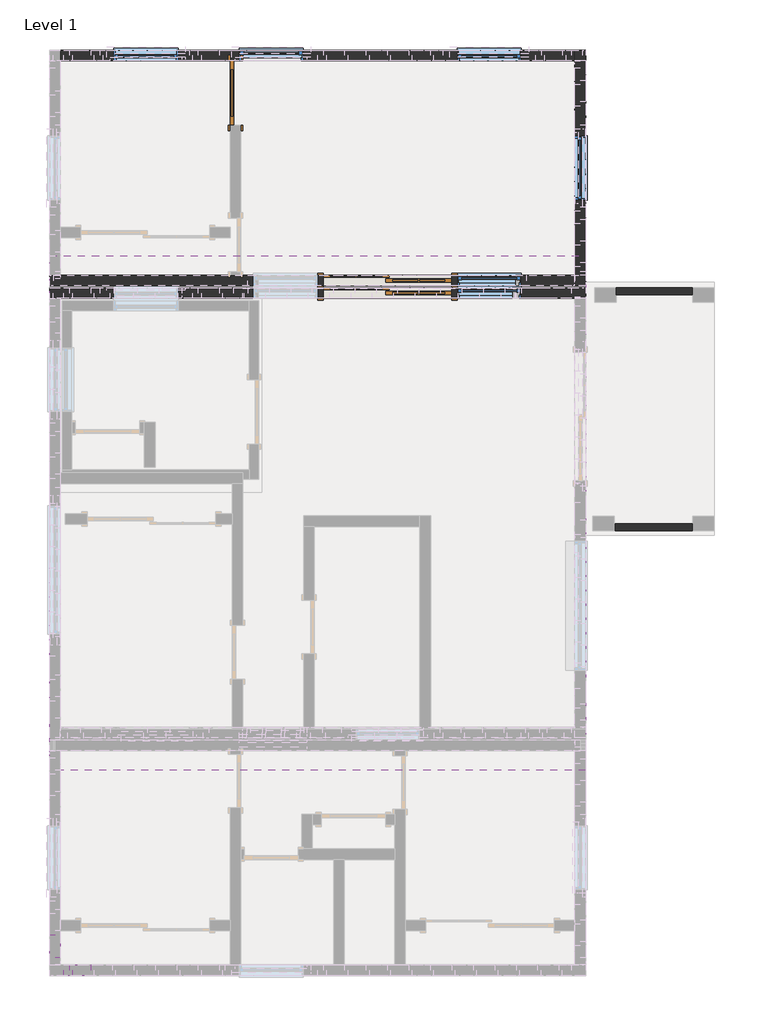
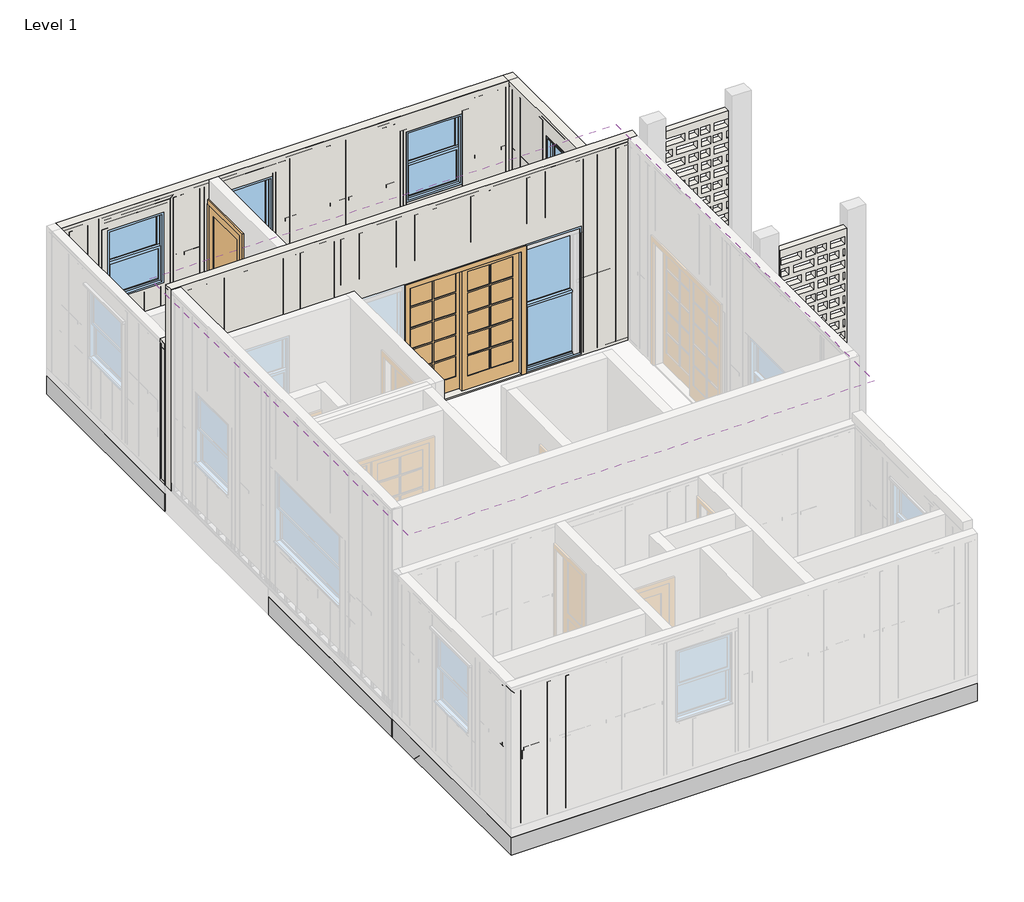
# One storey, part 2 of 12: 16 beams, 6 walls, 6 windows, 4 proxies, 3 doors, 1 roof.
"""IFC4 building model written with IfcOpenShell, lengths in millimetres."""

from ifc_helpers import new_model, si_unit, frame, origin, place, context, project, spatial, polyline, outline, extrude, faceted_brep, transform, mapped, element, save
from components import beam_558964e0, beam_19b97b81, beam_b824596b, beam_c7d5a1a4, beam_e62cedd2, beam_48424ac2, beam_34389604, door_d17baa25, door_789d9d7f, window_cbc6d26e, window_e812f40b, window_8e2a3c93

model = new_model("IFC4")

# Units and contexts
model_context = context("Model", 3, world=origin())
ifc_project = project(units=[si_unit("LENGTHUNIT", "METRE", prefix="MILLI")], contexts=[model_context])

# Site, building, storey
site = spatial("IfcSite", under=ifc_project)
building = spatial("IfcBuilding", under=site)
storey = spatial("IfcBuildingStorey", under=building, Name="Level 1", Elevation=0.0)

# Beams
placement = place(None, origin())
element("IfcBeam", 1, ObjectType="Rectangular(Timber)-Beam : Timber_0' - 1 31/32\" x0' - 5 29/32\" _ContentGenerator", at=placement, inside=storey, context=model_context, shape_type="SweptSolid", body=[
    extrude(outline(polyline([(2336.8, -11478.8690766), (2387.6, -11529.6690766), (0.0, -11529.6690766), (0.0, -11478.8690766), (2336.8, -11478.8690766)])), frame((0.0, -28538.9763369, 0.0), z_axis=(0.0, 1.0, 0.0), x_axis=(0.0, 0.0, 1.0)), (0.0, 0.0, 1.0), 152.4),
])
element("IfcBeam", 2, ObjectType="Rectangular(Timber)-Beam : Timber_0' - 1 31/32\" x0' - 5 29/32\" _ContentGenerator", at=placement, inside=storey, context=model_context, shape_type="SweptSolid", body=[
    extrude(outline(polyline([(-28386.5813369, 2387.6), (-28335.7813369, 2336.8), (-28335.7813369, 0.0), (-28386.5813369, 0.0), (-28386.5813369, 2387.6)])), frame((-11529.6790766, 0.0, 0.0), z_axis=(1.0, 0.0, 0.0), x_axis=(0.0, 1.0, 0.0)), (0.0, 0.0, 1.0), 152.4),
])
beam_shape = beam_558964e0(model_context)
element("IfcBeam", 3, ObjectType="Rectangular(Timber)-Beam : Timber_0' - 1 31/32\" x0' - 5 29/32\" _ContentGenerator", at=placement, inside=storey, context=model_context, shape_type="MappedRepresentation", body=[
    mapped(beam_shape, transform((-11453.4690766, -28462.7763369, 1193.8), x_axis=(0.0, 0.0, 1.0), y_axis=(1.0, 0.0, 0.0), z_axis=(0.0, 1.0, 0.0))),
])
element("IfcBeam", 4, ObjectType="Rectangular(Timber)-Beam : Timber_0' - 1 31/32\" x0' - 5 29/32\" _ContentGenerator", at=placement, inside=storey, context=model_context, shape_type="MappedRepresentation", body=[
    mapped(beam_shape, transform((-11402.6690766, -28462.7763369, 1193.8), x_axis=(0.0, 0.0, 1.0), y_axis=(1.0, 0.0, 0.0), z_axis=(0.0, 1.0, 0.0))),
])
element("IfcBeam", 5, ObjectType="Rectangular(Timber)-Beam : Timber_0' - 1 31/32\" x0' - 5 29/32\" _ContentGenerator", at=placement, inside=storey, context=model_context, shape_type="MappedRepresentation", body=[
    mapped(beam_shape, transform((-11224.8790766, -28462.7763369, 1193.8), x_axis=(0.0, 0.0, 1.0), y_axis=(1.0, 0.0, 0.0), z_axis=(0.0, 1.0, 0.0))),
])
element("IfcBeam", 6, ObjectType="Rectangular(Timber)-Beam : Timber_0' - 1 31/32\" x0' - 5 29/32\" _ContentGenerator", at=placement, inside=storey, context=model_context, shape_type="MappedRepresentation", body=[
    mapped(beam_shape, transform((-10920.0790766, -28462.7763369, 1193.8), x_axis=(0.0, 0.0, 1.0), y_axis=(1.0, 0.0, 0.0), z_axis=(0.0, 1.0, 0.0))),
])
element("IfcBeam", 7, ObjectType="Rectangular(Timber)-Beam : Timber_0' - 1 31/32\" x0' - 5 29/32\" _ContentGenerator", at=placement, inside=storey, context=model_context, shape_type="MappedRepresentation", body=[
    mapped(beam_shape, transform((-10615.2790766, -28462.7763369, 1193.8), x_axis=(0.0, 0.0, 1.0), y_axis=(1.0, 0.0, 0.0), z_axis=(0.0, 1.0, 0.0))),
])
element("IfcBeam", 8, ObjectType="Rectangular(Timber)-Beam : Timber_0' - 1 31/32\" x0' - 5 29/32\" _ContentGenerator", at=placement, inside=storey, context=model_context, shape_type="MappedRepresentation", body=[
    mapped(beam_shape, transform((-11453.4790766, -28310.3863369, 1193.8), x_axis=(0.0, 0.0, 1.0), y_axis=(0.0, -1.0, 0.0), z_axis=(1.0, 0.0, 0.0))),
])
element("IfcBeam", 9, ObjectType="Rectangular(Timber)-Beam : Timber_0' - 1 31/32\" x0' - 5 29/32\" _ContentGenerator", at=placement, inside=storey, context=model_context, shape_type="MappedRepresentation", body=[
    mapped(beam_shape, transform((-11351.8690766, -28462.7763369, 1193.8), x_axis=(0.0, 0.0, 1.0), y_axis=(1.0, 0.0, 0.0), z_axis=(0.0, 1.0, 0.0))),
])
beam_2_shape = beam_19b97b81(model_context)
element("IfcBeam", 10, ObjectType="Rectangular(Timber)-Beam : Timber_0' - 1 31/32\" x0' - 5 29/32\" _ContentGenerator", at=placement, inside=storey, context=model_context, shape_type="MappedRepresentation", body=[
    mapped(beam_2_shape, transform((-11072.4790766, -28462.7763369, 1314.45), x_axis=(1.0000000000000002, 0.0, 0.0), y_axis=(0.0, 0.0, -1.0000000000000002), z_axis=(0.0, 1.0000000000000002, 0.0))),
])
beam_3_shape = beam_b824596b(model_context)
element("IfcBeam", 11, ObjectType="Rectangular(Timber)-Beam : Timber_0' - 1 31/32\" x0' - 5 29/32\" _ContentGenerator", at=placement, inside=storey, context=model_context, shape_type="MappedRepresentation", body=[
    mapped(beam_3_shape, transform((-11453.4790766, -28119.8813369, 1314.45), x_axis=(0.0, -1.0000000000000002, 0.0), y_axis=(0.0, 0.0, -1.0000000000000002), z_axis=(1.0000000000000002, 0.0, 0.0))),
])
beam_4_shape = beam_c7d5a1a4(model_context)
element("IfcBeam", 12, ObjectType="Rectangular(Timber)-Beam : Timber_0' - 1 31/32\" x0' - 5 29/32\" _ContentGenerator", at=placement, inside=storey, context=model_context, shape_type="MappedRepresentation", body=[
    mapped(beam_4_shape, transform((-11288.3740766, -28462.7763369, 1314.45), x_axis=(1.0000000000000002, 0.0, 0.0), y_axis=(0.0, 0.0, -1.0000000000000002), z_axis=(0.0, 1.0000000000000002, 0.0))),
])
beam_5_shape = beam_e62cedd2(model_context)
element("IfcBeam", 13, ObjectType="WallPlates : 6\" x 3\"", at=placement, inside=storey, context=model_context, shape_type="MappedRepresentation", body=[
    mapped(beam_5_shape, transform((-11494.7540766, -28107.1813369, 793.75), x_axis=(0.0, -1.0000000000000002, 0.0), y_axis=(0.0, 0.0, -1.0000000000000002), z_axis=(1.0000000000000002, 0.0, 0.0))),
])
element("IfcBeam", 14, ObjectType="WallPlates : 6\" x 3\"", at=placement, inside=storey, context=model_context, shape_type="MappedRepresentation", body=[
    mapped(beam_5_shape, transform((-11494.7540766, -28107.1813369, 1219.2), x_axis=(0.0, -1.0000000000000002, 0.0), y_axis=(0.0, 0.0, -1.0000000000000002), z_axis=(1.0000000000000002, 0.0, 0.0))),
])
beam_6_shape = beam_48424ac2(model_context)
element("IfcBeam", 15, ObjectType="WallPlates : 6\" x 3\"", at=placement, inside=storey, context=model_context, shape_type="MappedRepresentation", body=[
    mapped(beam_6_shape, transform((-11288.3740766, -28504.0513369, 1219.2), x_axis=(1.0000000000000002, 0.0, 0.0), y_axis=(0.0, 0.0, -1.0000000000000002), z_axis=(0.0, 1.0000000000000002, 0.0))),
])
beam_7_shape = beam_34389604(model_context)
element("IfcBeam", 16, ObjectType="WallPlates : 6\" x 3\"", at=placement, inside=storey, context=model_context, shape_type="MappedRepresentation", body=[
    mapped(beam_7_shape, transform((-11085.1790766, -28504.0513369, 1219.2), x_axis=(1.0000000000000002, 0.0, 0.0), y_axis=(0.0, 0.0, -1.0000000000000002), z_axis=(0.0, 1.0000000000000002, 0.0))),
])

# Proxies
element("IfcBuildingElementProxy", 17, Name="Ext Thickened Edge Slab - CIP Conc - 24x12", ObjectType="Ext Thickened Edge Slab - CIP Conc - 24x12", at=placement, inside=storey, context=model_context, shape_type="Brep", body=[
    faceted_brep([(-8513.4290766, -18759.9763369, -457.2), (-8513.4290766, -19369.5763369, -457.2), (-8513.4290766, -19674.3763369, -152.4), (-8513.4290766, -18759.9763369, -152.4), (-3909.6790766, -18759.9763369, -152.4), (-3909.6790766, -18759.9763369, -457.2), (-4824.0790766, -19674.3763369, -152.4), (-4519.2790766, -19369.5763369, -457.2), (-3909.6790766, -25160.7763369, -152.4), (-3909.6790766, -25160.7763369, -457.2), (-4824.0790766, -24246.3763369, -152.4), (-4519.2790766, -24551.1763369, -457.2), (-11529.6790766, -25160.7763369, -152.4), (-11529.6790766, -25160.7763369, -457.2), (-10615.2790766, -24246.3763369, -152.4), (-10920.0790766, -24551.1763369, -457.2), (-11529.6790766, -21665.1013369, -457.2), (-11529.6790766, -21665.1013369, -152.4), (-10615.2790766, -21665.1013369, -152.4), (-10920.0790766, -21665.1013369, -457.2)], [[[0, 1, 2, 3]], [[4, 5, 0, 3]], [[6, 4, 3, 2]], [[7, 6, 2, 1]], [[5, 7, 1, 0]], [[8, 9, 5, 4]], [[10, 8, 4, 6]], [[11, 10, 6, 7]], [[9, 11, 7, 5]], [[12, 13, 9, 8]], [[14, 12, 8, 10]], [[15, 14, 10, 11]], [[13, 15, 11, 9]], [[16, 17, 18, 19]], [[17, 16, 13, 12]], [[18, 17, 12, 14]], [[19, 18, 14, 15]], [[16, 19, 15, 13]]]),
])
element("IfcBuildingElementProxy", 18, Name="Ext Thickened Edge Slab - CIP Conc - 24x12", ObjectType="Ext Thickened Edge Slab - CIP Conc - 24x12", at=placement, inside=storey, context=model_context, shape_type="Brep", body=[
    faceted_brep([(-3909.6790766, -15381.8431336, -152.4), (-3909.6790766, -15381.8431336, -457.2), (-11529.6790766, -15381.8431336, -457.2), (-11529.6790766, -15381.8431336, -152.4), (-4824.0790766, -16296.2431336, -152.4), (-10615.2790766, -16296.2431336, -152.4), (-4519.2790766, -15991.4431336, -457.2), (-10920.0790766, -15991.4431336, -457.2), (-3909.6790766, -18734.5763369, -152.4), (-3909.6790766, -18734.5763369, -457.2), (-4824.0790766, -17820.1763369, -152.4), (-4519.2790766, -18124.9763369, -457.2), (-11529.6790766, -18734.5763369, -152.4), (-11529.6790766, -18734.5763369, -457.2), (-10615.2790766, -17820.1763369, -152.4), (-10920.0790766, -18124.9763369, -457.2)], [[[0, 1, 2, 3]], [[4, 0, 3, 5]], [[6, 4, 5, 7]], [[1, 6, 7, 2]], [[8, 9, 1, 0]], [[10, 8, 0, 4]], [[11, 10, 4, 6]], [[9, 11, 6, 1]], [[12, 13, 9, 8]], [[14, 12, 8, 10]], [[15, 14, 10, 11]], [[13, 15, 11, 9]], [[3, 2, 13, 12]], [[5, 3, 12, 14]], [[7, 5, 14, 15]], [[2, 7, 15, 13]]]),
])
element("IfcBuildingElementProxy", 19, Name="Ext Thickened Edge Slab - CIP Conc - 24x12", ObjectType="Ext Thickened Edge Slab - CIP Conc - 24x12", at=placement, inside=storey, context=model_context, shape_type="Brep", body=[
    faceted_brep([(-3909.6790766, -25186.1763369, -457.2), (-4519.2790766, -25186.1763369, -457.2), (-4824.0790766, -25186.1763369, -152.4), (-3909.6790766, -25186.1763369, -152.4), (-3909.6790766, -28538.9763369, -152.4), (-3909.6790766, -28538.9763369, -457.2), (-4824.0790766, -27624.5763369, -152.4), (-4519.2790766, -27929.3763369, -457.2), (-11529.6790766, -28538.9763369, -152.4), (-11529.6790766, -28538.9763369, -457.2), (-10615.2790766, -27624.5763369, -152.4), (-10920.0790766, -27929.3763369, -457.2), (-11529.6790766, -25186.1763369, -457.2), (-11529.6790766, -25186.1763369, -152.4), (-10615.2790766, -25186.1763369, -152.4), (-10920.0790766, -25186.1763369, -457.2)], [[[0, 1, 2, 3]], [[4, 5, 0, 3]], [[6, 4, 3, 2]], [[7, 6, 2, 1]], [[5, 7, 1, 0]], [[8, 9, 5, 4]], [[10, 8, 4, 6]], [[11, 10, 6, 7]], [[9, 11, 7, 5]], [[12, 13, 14, 15]], [[13, 12, 9, 8]], [[14, 13, 8, 10]], [[15, 14, 10, 11]], [[12, 15, 11, 9]]]),
])
element("IfcBuildingElementProxy", 20, Name="Ext Thickened Edge Slab - CIP Conc - 24x12", ObjectType="Ext Thickened Edge Slab - CIP Conc - 24x12", at=placement, inside=storey, context=model_context, shape_type="SweptSolid", body=[
    extrude(outline(polyline([(-25186.1763369, -457.2), (-25795.7763369, -457.2), (-26100.5763369, -152.4), (-25186.1763369, -152.4), (-25186.1763369, -457.2)])), frame((-11529.6790766, 0.0, 0.0), z_axis=(1.0, 0.0, 0.0), x_axis=(0.0, 1.0, 0.0)), (0.0, 0.0, 1.0), 7620.0),
])

# Doors
door_shape = door_d17baa25(model_context)
element("IfcDoor", 21, ObjectType="Single-Panel 1 : 36\" x 80\"", at=placement, inside=storey, context=model_context, shape_type="MappedRepresentation", body=[
    mapped(door_shape, transform((-8888.0790766, -15991.4431336, 0.0), x_axis=(0.0, 1.0, 0.0), y_axis=(-1.0, 0.0, 0.0), z_axis=(0.0, 0.0, 1.0))),
])
door_2_shape = door_789d9d7f(model_context)
element("IfcDoor", 22, ObjectType="Sliding-2 Panel 2 : 72\" x 84\"", at=placement, inside=storey, context=model_context, shape_type="MappedRepresentation", body=[
    mapped(door_2_shape, transform((-6729.0790766, -18963.1763369, 25.4), x_axis=(1.0, 0.0, 0.0), y_axis=(0.0, 1.0, 0.0), z_axis=(0.0, 0.0, 1.0))),
])
element("IfcDoor", 23, ObjectType="Sliding-2 Panel 2 : 72\" x 84\"", at=placement, inside=storey, context=model_context, shape_type="MappedRepresentation", body=[
    mapped(door_2_shape, transform((-6729.0790766, -18785.4431336, 25.4), x_axis=(1.0, 0.0, 0.0), y_axis=(0.0, 1.0, 0.0), z_axis=(0.0, 0.0, 1.0))),
])

# Roof
element("IfcRoof", 24, ObjectType="zGeneric - 16", at=placement, inside=storey, context=model_context, shape_type="SweptSolid", body=[
    extrude(outline(polyline([(-18302.7763369, 3457.575), (-18302.7763369, 3305.175), (-21960.3763369, 4498.975), (-25617.9763369, 3305.175), (-25617.9763369, 3457.575), (-21960.3763369, 4651.375), (-18302.7763369, 3457.575)])), frame((-11529.6790766, 0.0, 0.0), z_axis=(1.0, 0.0, 0.0), x_axis=(0.0, 1.0, 0.0)), (0.0, 0.0, 1.0), 7620.0),
])

# Walls
element("IfcWall", 25, ObjectType="CWXX - 6in CIP Conc", at=placement, inside=storey, context=model_context, shape_type="Brep", body=[
    faceted_brep([(-11529.6790766, -18912.3763369, 0.0), (-4062.0790766, -18912.3763369, 0.0), (-3909.6790766, -18912.3763369, 0.0), (-3909.6790766, -18912.3763369, 3482.456975), (-4062.0790766, -18912.3763369, 3482.456975), (-11529.6790766, -18912.3763369, 3482.456975), (-11529.6790766, -18912.3763369, 3479.8), (-11529.6790766, -18912.3763369, 152.4), (-7643.4790766, -18912.3763369, 2159.0), (-5814.6790766, -18912.3763369, 2159.0), (-5814.6790766, -18912.3763369, 25.4), (-7643.4790766, -18912.3763369, 25.4), (-4824.0790766, -18912.3763369, 2235.2), (-4824.0790766, -18912.3763369, 25.4), (-5738.4790766, -18912.3763369, 25.4), (-5738.4790766, -18912.3763369, 2235.2), (-7719.6790766, -18912.3763369, 2235.2), (-7719.6790766, -18912.3763369, 25.4), (-8634.0790766, -18912.3763369, 25.4), (-8634.0790766, -18912.3763369, 2235.2), (-9700.8790766, -18912.3763369, 2152.65), (-9700.8790766, -18912.3763369, 933.45), (-10615.2790766, -18912.3763369, 933.45), (-10615.2790766, -18912.3763369, 2152.65), (-11529.6790766, -18759.9763369, 0.0), (-11529.6790766, -18759.9763369, 3482.456975), (-3909.6790766, -18759.9763369, 3482.456975), (-3909.6790766, -18759.9763369, 0.0), (-7643.4790766, -18759.9763369, 2159.0), (-7643.4790766, -18759.9763369, 25.4), (-5814.6790766, -18759.9763369, 25.4), (-5814.6790766, -18759.9763369, 2159.0), (-4824.0790766, -18759.9763369, 2235.2), (-5738.4790766, -18759.9763369, 2235.2), (-5738.4790766, -18759.9763369, 25.4), (-4824.0790766, -18759.9763369, 25.4), (-7719.6790766, -18759.9763369, 2235.2), (-8634.0790766, -18759.9763369, 2235.2), (-8634.0790766, -18759.9763369, 25.4), (-7719.6790766, -18759.9763369, 25.4), (-9700.8790766, -18759.9763369, 2152.65), (-10615.2790766, -18759.9763369, 2152.65), (-10615.2790766, -18759.9763369, 933.45), (-9700.8790766, -18759.9763369, 933.45)], [[[0, 1, 2, 3, 4, 5, 6, 7], [8, 9, 10, 11], [12, 13, 14, 15], [16, 17, 18, 19], [20, 21, 22, 23]], [[24, 25, 26, 27], [28, 29, 30, 31], [32, 33, 34, 35], [36, 37, 38, 39], [40, 41, 42, 43]], [[2, 1, 0, 24, 27]], [[5, 4, 3, 26, 25]], [[3, 2, 27, 26]], [[29, 28, 8, 11]], [[30, 29, 11, 10]], [[31, 30, 10, 9]], [[28, 31, 9, 8]], [[13, 12, 32, 35]], [[14, 13, 35, 34]], [[15, 14, 34, 33]], [[12, 15, 33, 32]], [[17, 16, 36, 39]], [[18, 17, 39, 38]], [[19, 18, 38, 37]], [[16, 19, 37, 36]], [[0, 7, 6, 5, 25, 24]], [[21, 20, 40, 43]], [[22, 21, 43, 42]], [[23, 22, 42, 41]], [[20, 23, 41, 40]]]),
])
element("IfcWall", 26, ObjectType="CWXX - 6in CIP Conc", at=placement, inside=storey, context=model_context, shape_type="Brep", body=[
    faceted_brep([(-4062.0790766, -15534.2431336, 2438.4), (-8811.8790766, -15534.2431336, 2438.4), (-8964.2790766, -15534.2431336, 2438.4), (-11377.2790766, -15534.2431336, 2438.4), (-11377.2790766, -15534.2431336, 0.0), (-8837.2790766, -15534.2431336, 0.0), (-8837.2790766, -15534.2431336, 2133.6), (-7922.8790766, -15534.2431336, 2133.6), (-7922.8790766, -15534.2431336, 0.0), (-4062.0790766, -15534.2431336, 0.0), (-10615.2790766, -15534.2431336, 2133.6), (-9700.8790766, -15534.2431336, 2133.6), (-9700.8790766, -15534.2431336, 914.4), (-10615.2790766, -15534.2431336, 914.4), (-5738.4790766, -15534.2431336, 2133.6), (-4824.0790766, -15534.2431336, 2133.6), (-4824.0790766, -15534.2431336, 914.4), (-5738.4790766, -15534.2431336, 914.4), (-11377.2790766, -15381.8431336, 2438.4), (-4062.0790766, -15381.8431336, 2438.4), (-4062.0790766, -15381.8431336, 0.0), (-7922.8790766, -15381.8431336, 0.0), (-7922.8790766, -15381.8431336, 2133.6), (-8837.2790766, -15381.8431336, 2133.6), (-8837.2790766, -15381.8431336, 0.0), (-11377.2790766, -15381.8431336, 0.0), (-10615.2790766, -15381.8431336, 2133.6), (-10615.2790766, -15381.8431336, 914.4), (-9700.8790766, -15381.8431336, 914.4), (-9700.8790766, -15381.8431336, 2133.6), (-5738.4790766, -15381.8431336, 2133.6), (-5738.4790766, -15381.8431336, 914.4), (-4824.0790766, -15381.8431336, 914.4), (-4824.0790766, -15381.8431336, 2133.6)], [[[0, 1, 2, 3, 4, 5, 6, 7, 8, 9], [10, 11, 12, 13], [14, 15, 16, 17]], [[18, 19, 20, 21, 22, 23, 24, 25], [26, 27, 28, 29], [30, 31, 32, 33]], [[4, 25, 24, 5]], [[20, 9, 8, 21]], [[3, 2, 1, 0, 19, 18]], [[27, 26, 10, 13]], [[28, 27, 13, 12]], [[29, 28, 12, 11]], [[26, 29, 11, 10]], [[31, 30, 14, 17]], [[32, 31, 17, 16]], [[33, 32, 16, 15]], [[30, 33, 15, 14]], [[0, 9, 20, 19]], [[4, 3, 18, 25]], [[23, 6, 5, 24]], [[7, 22, 21, 8]], [[6, 23, 22, 7]]]),
])
element("IfcWall", 27, ObjectType="CWXX - 6in CIP Conc", at=placement, inside=storey, context=model_context, shape_type="Brep", body=[
    faceted_brep([(-4062.0790766, -15381.8431336, 0.0), (-4062.0790766, -15534.2431336, 0.0), (-4062.0790766, -18582.2431336, 0.0), (-4062.0790766, -18734.6431336, 0.0), (-4062.0790766, -18734.6431336, 2438.4), (-4062.0790766, -18582.2431336, 2438.4), (-4062.0790766, -15534.2431336, 2438.4), (-4062.0790766, -15381.8431336, 2438.4), (-4062.0790766, -16601.0431336, 2133.6), (-4062.0790766, -17515.4431336, 2133.6), (-4062.0790766, -17515.4431336, 914.4), (-4062.0790766, -16601.0431336, 914.4), (-3909.6790766, -15381.8431336, 0.0), (-3909.6790766, -15381.8431336, 2438.4), (-3909.6790766, -18734.6431336, 2438.4), (-3909.6790766, -18734.6431336, 0.0), (-3909.6790766, -16601.0431336, 2133.6), (-3909.6790766, -16601.0431336, 914.4), (-3909.6790766, -17515.4431336, 914.4), (-3909.6790766, -17515.4431336, 2133.6)], [[[0, 1, 2, 3, 4, 5, 6, 7], [8, 9, 10, 11]], [[12, 13, 14, 15], [16, 17, 18, 19]], [[3, 2, 1, 0, 12, 15]], [[7, 6, 5, 4, 14, 13]], [[4, 3, 15, 14]], [[17, 16, 8, 11]], [[18, 17, 11, 10]], [[19, 18, 10, 9]], [[16, 19, 9, 8]], [[0, 7, 13, 12]]]),
])
element("IfcWall", 28, ObjectType="CWXX - 6in CIP Conc", at=placement, inside=storey, context=model_context, shape_type="Brep", body=[
    faceted_brep([(-4062.0790766, -18582.2431336, 0.0), (-8811.8790766, -18582.2431336, 0.0), (-8964.2790766, -18582.2431336, 0.0), (-11377.2790766, -18582.2431336, 0.0), (-11529.6790766, -18582.2431336, 0.0), (-11529.6790766, -18582.2431336, 2438.4), (-11377.2790766, -18582.2431336, 2438.4), (-8964.2790766, -18582.2431336, 2438.4), (-8811.8790766, -18582.2431336, 2438.4), (-4062.0790766, -18582.2431336, 2438.4), (-7719.6790766, -18582.2431336, 2235.2), (-8634.0790766, -18582.2431336, 2235.2), (-8634.0790766, -18582.2431336, 25.4), (-7719.6790766, -18582.2431336, 25.4), (-4824.0790766, -18582.2431336, 2235.2), (-5738.4790766, -18582.2431336, 2235.2), (-5738.4790766, -18582.2431336, 25.4), (-4824.0790766, -18582.2431336, 25.4), (-7643.4790766, -18582.2431336, 2159.0), (-7643.4790766, -18582.2431336, 25.4), (-5814.6790766, -18582.2431336, 25.4), (-5814.6790766, -18582.2431336, 2159.0), (-4062.0790766, -18734.6431336, 0.0), (-4062.0790766, -18734.6431336, 2438.4), (-11529.6790766, -18734.6431336, 2438.4), (-11529.6790766, -18734.6431336, 0.0), (-7719.6790766, -18734.6431336, 2235.2), (-7719.6790766, -18734.6431336, 25.4), (-8634.0790766, -18734.6431336, 25.4), (-8634.0790766, -18734.6431336, 2235.2), (-4824.0790766, -18734.6431336, 2235.2), (-4824.0790766, -18734.6431336, 25.4), (-5738.4790766, -18734.6431336, 25.4), (-5738.4790766, -18734.6431336, 2235.2), (-7643.4790766, -18734.6431336, 2159.0), (-5814.6790766, -18734.6431336, 2159.0), (-5814.6790766, -18734.6431336, 25.4), (-7643.4790766, -18734.6431336, 25.4)], [[[0, 1, 2, 3, 4, 5, 6, 7, 8, 9], [10, 11, 12, 13], [14, 15, 16, 17], [18, 19, 20, 21]], [[22, 23, 24, 25], [26, 27, 28, 29], [30, 31, 32, 33], [34, 35, 36, 37]], [[4, 3, 2, 1, 0, 22, 25]], [[9, 8, 7, 6, 5, 24, 23]], [[0, 9, 23, 22]], [[27, 26, 10, 13]], [[28, 27, 13, 12]], [[29, 28, 12, 11]], [[26, 29, 11, 10]], [[31, 30, 14, 17]], [[32, 31, 17, 16]], [[33, 32, 16, 15]], [[30, 33, 15, 14]], [[19, 18, 34, 37]], [[20, 19, 37, 36]], [[21, 20, 36, 35]], [[18, 21, 35, 34]], [[5, 4, 25, 24]]]),
])
element("IfcWall", 29, ObjectType="4\" CMU", at=placement, inside=storey, context=model_context, shape_type="SweptSolid", body=[
    extrude(outline(polyline([(0.0, -2392.7830861), (3350.143025, -2392.7830861), (3350.143025, -3475.3638945), (0.0, -3475.3638945), (0.0, -2392.7830861)]), holes=[polyline([(2882.9, -3235.3140507), (3009.9, -3235.3140507), (3009.9, -2905.1140507), (2882.9, -2905.1140507), (2882.9, -3235.3140507)]), polyline([(2882.9, -3311.5140507), (2882.9, -3437.2638945), (3009.9, -3437.2638945), (3009.9, -3311.5140507), (2882.9, -3311.5140507)]), polyline([(3009.9, -2828.9140507), (3009.9, -2682.8640507), (2882.9, -2682.8640507), (2882.9, -2828.9140507), (3009.9, -2828.9140507)]), polyline([(2882.9, -2644.7640507), (3009.9, -2644.7640507), (3009.9, -2498.7140507), (2882.9, -2498.7140507), (2882.9, -2644.7640507)]), polyline([(2882.9, -2422.5140507), (3009.9, -2422.5140507), (3009.9, -2397.1140507), (2882.9, -2397.1140507), (2882.9, -2422.5140507)]), polyline([(2805.4498437, -2397.1140507), (2678.4498437, -2397.1140507), (2678.4498437, -2625.7140507), (2805.4498437, -2625.7140507), (2805.4498437, -2397.1140507)]), polyline([(2678.4498437, -2700.6638945), (2678.4498437, -2846.7138945), (2805.4498437, -2846.7138945), (2805.4498437, -2700.6638945), (2678.4498437, -2700.6638945)]), polyline([(2678.4498437, -2884.8138945), (2678.4498437, -3030.8638945), (2805.4498437, -3030.8638945), (2805.4498437, -2884.8138945), (2678.4498437, -2884.8138945)]), polyline([(2678.4498437, -3107.0638945), (2678.4498437, -3437.2638945), (2805.4498437, -3437.2638945), (2805.4498437, -3107.0638945), (2678.4498437, -3107.0638945)]), polyline([(2476.5, -3235.3140507), (2603.5, -3235.3140507), (2603.5, -2905.1140507), (2476.5, -2905.1140507), (2476.5, -3235.3140507)]), polyline([(2476.5, -3311.5140507), (2476.5, -3437.2638945), (2603.5, -3437.2638945), (2603.5, -3311.5140507), (2476.5, -3311.5140507)]), polyline([(2603.5, -2828.9140507), (2603.5, -2682.8640507), (2476.5, -2682.8640507), (2476.5, -2828.9140507), (2603.5, -2828.9140507)]), polyline([(2476.5, -2644.7640507), (2603.5, -2644.7640507), (2603.5, -2498.7140507), (2476.5, -2498.7140507), (2476.5, -2644.7640507)]), polyline([(2476.5, -2422.5140507), (2603.5, -2422.5140507), (2603.5, -2397.1140507), (2476.5, -2397.1140507), (2476.5, -2422.5140507)]), polyline([(2399.0498437, -2397.1140507), (2272.0498437, -2397.1140507), (2272.0498437, -2625.7140507), (2399.0498437, -2625.7140507), (2399.0498437, -2397.1140507)]), polyline([(2272.0498437, -2700.6638945), (2272.0498437, -2846.7138945), (2399.0498437, -2846.7138945), (2399.0498437, -2700.6638945), (2272.0498437, -2700.6638945)]), polyline([(2272.0498437, -2884.8138945), (2272.0498437, -3030.8638945), (2399.0498437, -3030.8638945), (2399.0498437, -2884.8138945), (2272.0498437, -2884.8138945)]), polyline([(2272.0498437, -3107.0638945), (2272.0498437, -3437.2638945), (2399.0498437, -3437.2638945), (2399.0498437, -3107.0638945), (2272.0498437, -3107.0638945)]), polyline([(2070.1, -3235.3140507), (2197.1, -3235.3140507), (2197.1, -2905.1140507), (2070.1, -2905.1140507), (2070.1, -3235.3140507)]), polyline([(2070.1, -3311.5140507), (2070.1, -3437.2638945), (2197.1, -3437.2638945), (2197.1, -3311.5140507), (2070.1, -3311.5140507)]), polyline([(2197.1, -2828.9140507), (2197.1, -2682.8640507), (2070.1, -2682.8640507), (2070.1, -2828.9140507), (2197.1, -2828.9140507)]), polyline([(2070.1, -2644.7640507), (2197.1, -2644.7640507), (2197.1, -2498.7140507), (2070.1, -2498.7140507), (2070.1, -2644.7640507)]), polyline([(2070.1, -2422.5140507), (2197.1, -2422.5140507), (2197.1, -2397.1140507), (2070.1, -2397.1140507), (2070.1, -2422.5140507)]), polyline([(1992.6498437, -2397.1140507), (1865.6498437, -2397.1140507), (1865.6498437, -2625.7140507), (1992.6498437, -2625.7140507), (1992.6498437, -2397.1140507)]), polyline([(1865.6498437, -2700.6638945), (1865.6498437, -2846.7138945), (1992.6498437, -2846.7138945), (1992.6498437, -2700.6638945), (1865.6498437, -2700.6638945)]), polyline([(1865.6498437, -2884.8138945), (1865.6498437, -3030.8638945), (1992.6498437, -3030.8638945), (1992.6498437, -2884.8138945), (1865.6498437, -2884.8138945)]), polyline([(1865.6498437, -3107.0638945), (1865.6498437, -3437.2638945), (1992.6498437, -3437.2638945), (1992.6498437, -3107.0638945), (1865.6498437, -3107.0638945)]), polyline([(1663.7, -3235.3140507), (1790.7, -3235.3140507), (1790.7, -2905.1140507), (1663.7, -2905.1140507), (1663.7, -3235.3140507)]), polyline([(1663.7, -3311.5140507), (1663.7, -3437.2638945), (1790.7, -3437.2638945), (1790.7, -3311.5140507), (1663.7, -3311.5140507)]), polyline([(1790.7, -2828.9140507), (1790.7, -2682.8640507), (1663.7, -2682.8640507), (1663.7, -2828.9140507), (1790.7, -2828.9140507)]), polyline([(1663.7, -2644.7640507), (1790.7, -2644.7640507), (1790.7, -2498.7140507), (1663.7, -2498.7140507), (1663.7, -2644.7640507)]), polyline([(1663.7, -2422.5140507), (1790.7, -2422.5140507), (1790.7, -2397.1140507), (1663.7, -2397.1140507), (1663.7, -2422.5140507)]), polyline([(1586.2498437, -2397.1140507), (1459.2498437, -2397.1140507), (1459.2498437, -2625.7140507), (1586.2498437, -2625.7140507), (1586.2498437, -2397.1140507)]), polyline([(1459.2498437, -2700.6638945), (1459.2498437, -2846.7138945), (1586.2498437, -2846.7138945), (1586.2498437, -2700.6638945), (1459.2498437, -2700.6638945)]), polyline([(1459.2498437, -2884.8138945), (1459.2498437, -3030.8638945), (1586.2498437, -3030.8638945), (1586.2498437, -2884.8138945), (1459.2498437, -2884.8138945)]), polyline([(1459.2498437, -3107.0638945), (1459.2498437, -3437.2638945), (1586.2498437, -3437.2638945), (1586.2498437, -3107.0638945), (1459.2498437, -3107.0638945)]), polyline([(1257.3, -3235.3140507), (1384.3, -3235.3140507), (1384.3, -2905.1140507), (1257.3, -2905.1140507), (1257.3, -3235.3140507)]), polyline([(1257.3, -3311.5140507), (1257.3, -3437.2638945), (1384.3, -3437.2638945), (1384.3, -3311.5140507), (1257.3, -3311.5140507)]), polyline([(1384.3, -2828.9140507), (1384.3, -2682.8640507), (1257.3, -2682.8640507), (1257.3, -2828.9140507), (1384.3, -2828.9140507)]), polyline([(1257.3, -2644.7640507), (1384.3, -2644.7640507), (1384.3, -2498.7140507), (1257.3, -2498.7140507), (1257.3, -2644.7640507)]), polyline([(1257.3, -2422.5140507), (1384.3, -2422.5140507), (1384.3, -2397.1140507), (1257.3, -2397.1140507), (1257.3, -2422.5140507)]), polyline([(1179.8498437, -2397.1140507), (1052.8498437, -2397.1140507), (1052.8498437, -2625.7140507), (1179.8498437, -2625.7140507), (1179.8498437, -2397.1140507)]), polyline([(1052.8498437, -2700.6638945), (1052.8498437, -2846.7138945), (1179.8498437, -2846.7138945), (1179.8498437, -2700.6638945), (1052.8498437, -2700.6638945)]), polyline([(1052.8498437, -2884.8138945), (1052.8498437, -3030.8638945), (1179.8498437, -3030.8638945), (1179.8498437, -2884.8138945), (1052.8498437, -2884.8138945)]), polyline([(1052.8498437, -3107.0638945), (1052.8498437, -3437.2638945), (1179.8498437, -3437.2638945), (1179.8498437, -3107.0638945), (1052.8498437, -3107.0638945)]), polyline([(850.9, -3235.3140507), (977.9, -3235.3140507), (977.9, -2905.1140507), (850.9, -2905.1140507), (850.9, -3235.3140507)]), polyline([(850.9, -3311.5140507), (850.9, -3437.2638945), (977.9, -3437.2638945), (977.9, -3311.5140507), (850.9, -3311.5140507)]), polyline([(977.9, -2828.9140507), (977.9, -2682.8640507), (850.9, -2682.8640507), (850.9, -2828.9140507), (977.9, -2828.9140507)]), polyline([(850.9, -2644.7640507), (977.9, -2644.7640507), (977.9, -2498.7140507), (850.9, -2498.7140507), (850.9, -2644.7640507)]), polyline([(850.9, -2422.5140507), (977.9, -2422.5140507), (977.9, -2397.1140507), (850.9, -2397.1140507), (850.9, -2422.5140507)]), polyline([(773.4498437, -2397.1140507), (646.4498437, -2397.1140507), (646.4498437, -2625.7140507), (773.4498437, -2625.7140507), (773.4498437, -2397.1140507)]), polyline([(646.4498437, -2700.6638945), (646.4498437, -2846.7138945), (773.4498437, -2846.7138945), (773.4498437, -2700.6638945), (646.4498437, -2700.6638945)]), polyline([(646.4498437, -2884.8138945), (646.4498437, -3030.8638945), (773.4498437, -3030.8638945), (773.4498437, -2884.8138945), (646.4498437, -2884.8138945)]), polyline([(646.4498437, -3107.0638945), (646.4498437, -3437.2638945), (773.4498437, -3437.2638945), (773.4498437, -3107.0638945), (646.4498437, -3107.0638945)]), polyline([(444.5, -3235.3140507), (571.5, -3235.3140507), (571.5, -2905.1140507), (444.5, -2905.1140507), (444.5, -3235.3140507)]), polyline([(444.5, -3311.5140507), (444.5, -3437.2638945), (571.5, -3437.2638945), (571.5, -3311.5140507), (444.5, -3311.5140507)]), polyline([(571.5, -2828.9140507), (571.5, -2682.8640507), (444.5, -2682.8640507), (444.5, -2828.9140507), (571.5, -2828.9140507)]), polyline([(444.5, -2644.7640507), (571.5, -2644.7640507), (571.5, -2498.7140507), (444.5, -2498.7140507), (444.5, -2644.7640507)]), polyline([(444.5, -2422.5140507), (571.5, -2422.5140507), (571.5, -2397.1140507), (444.5, -2397.1140507), (444.5, -2422.5140507)]), polyline([(367.0498437, -2397.1140507), (240.0498437, -2397.1140507), (240.0498437, -2625.7140507), (367.0498437, -2625.7140507), (367.0498437, -2397.1140507)]), polyline([(240.0498437, -2700.6638945), (240.0498437, -2846.7138945), (367.0498437, -2846.7138945), (367.0498437, -2700.6638945), (240.0498437, -2700.6638945)]), polyline([(240.0498437, -2884.8138945), (240.0498437, -3030.8638945), (367.0498437, -3030.8638945), (367.0498437, -2884.8138945), (240.0498437, -2884.8138945)]), polyline([(240.0498437, -3107.0638945), (240.0498437, -3437.2638945), (367.0498437, -3437.2638945), (367.0498437, -3107.0638945), (240.0498437, -3107.0638945)]), polyline([(38.1, -3235.3140507), (165.1, -3235.3140507), (165.1, -2905.1140507), (38.1, -2905.1140507), (38.1, -3235.3140507)]), polyline([(38.1, -3311.5140507), (38.1, -3437.2638945), (165.1, -3437.2638945), (165.1, -3311.5140507), (38.1, -3311.5140507)]), polyline([(165.1, -2828.9140507), (165.1, -2682.8640507), (38.1, -2682.8640507), (38.1, -2828.9140507), (165.1, -2828.9140507)]), polyline([(38.1, -2644.7640507), (165.1, -2644.7640507), (165.1, -2498.7140507), (38.1, -2498.7140507), (38.1, -2644.7640507)]), polyline([(38.1, -2422.5140507), (165.1, -2422.5140507), (165.1, -2397.1140507), (38.1, -2397.1140507), (38.1, -2422.5140507)]), polyline([(3211.8498437, -2397.1140507), (3084.8498437, -2397.1140507), (3084.8498437, -2625.7140507), (3211.8498437, -2625.7140507), (3211.8498437, -2397.1140507)]), polyline([(3084.8498437, -2700.6638945), (3084.8498437, -2846.7138945), (3211.8498437, -2846.7138945), (3211.8498437, -2700.6638945), (3084.8498437, -2700.6638945)]), polyline([(3084.8498437, -2884.8138945), (3084.8498437, -3030.8638945), (3211.8498437, -3030.8638945), (3211.8498437, -2884.8138945), (3084.8498437, -2884.8138945)]), polyline([(3084.8498437, -3107.0638945), (3084.8498437, -3437.2638945), (3211.8498437, -3437.2638945), (3211.8498437, -3107.0638945), (3084.8498437, -3107.0638945)])]), frame((0.0, -18861.5763369, 0.0), z_axis=(0.0, 1.0, 0.0), x_axis=(0.0, 0.0, 1.0)), (0.0, 0.0, 1.0), 101.6),
])
element("IfcWall", 30, ObjectType="4\" CMU", at=placement, inside=storey, context=model_context, shape_type="SweptSolid", body=[
    extrude(outline(polyline([(0.0, -2392.2455193), (3350.143025, -2392.2455193), (3350.143025, -3491.7314879), (0.0, -3491.7314879), (0.0, -2392.2455193)]), holes=[polyline([(2882.9, -3261.9592328), (3009.9, -3261.9592328), (3009.9, -2931.7592328), (2882.9, -2931.7592328), (2882.9, -3261.9592328)]), polyline([(2882.9, -3338.1592328), (2882.9, -3463.9090766), (3009.9, -3463.9090766), (3009.9, -3338.1592328), (2882.9, -3338.1592328)]), polyline([(3009.9, -2855.5592328), (3009.9, -2709.5092328), (2882.9, -2709.5092328), (2882.9, -2855.5592328), (3009.9, -2855.5592328)]), polyline([(2882.9, -2671.4092328), (3009.9, -2671.4092328), (3009.9, -2525.3592328), (2882.9, -2525.3592328), (2882.9, -2671.4092328)]), polyline([(2882.9, -2449.1592328), (3009.9, -2449.1592328), (3009.9, -2423.7592328), (2882.9, -2423.7592328), (2882.9, -2449.1592328)]), polyline([(2805.4498437, -2423.7592328), (2678.4498437, -2423.7592328), (2678.4498437, -2652.3592328), (2805.4498437, -2652.3592328), (2805.4498437, -2423.7592328)]), polyline([(2678.4498437, -2727.3090766), (2678.4498437, -2873.3590766), (2805.4498437, -2873.3590766), (2805.4498437, -2727.3090766), (2678.4498437, -2727.3090766)]), polyline([(2678.4498437, -2911.4590766), (2678.4498437, -3057.5090766), (2805.4498437, -3057.5090766), (2805.4498437, -2911.4590766), (2678.4498437, -2911.4590766)]), polyline([(2678.4498437, -3133.7090766), (2678.4498437, -3463.9090766), (2805.4498437, -3463.9090766), (2805.4498437, -3133.7090766), (2678.4498437, -3133.7090766)]), polyline([(2476.5, -3261.9592328), (2603.5, -3261.9592328), (2603.5, -2931.7592328), (2476.5, -2931.7592328), (2476.5, -3261.9592328)]), polyline([(2476.5, -3338.1592328), (2476.5, -3463.9090766), (2603.5, -3463.9090766), (2603.5, -3338.1592328), (2476.5, -3338.1592328)]), polyline([(2603.5, -2855.5592328), (2603.5, -2709.5092328), (2476.5, -2709.5092328), (2476.5, -2855.5592328), (2603.5, -2855.5592328)]), polyline([(2476.5, -2671.4092328), (2603.5, -2671.4092328), (2603.5, -2525.3592328), (2476.5, -2525.3592328), (2476.5, -2671.4092328)]), polyline([(2476.5, -2449.1592328), (2603.5, -2449.1592328), (2603.5, -2423.7592328), (2476.5, -2423.7592328), (2476.5, -2449.1592328)]), polyline([(2399.0498437, -2423.7592328), (2272.0498437, -2423.7592328), (2272.0498437, -2652.3592328), (2399.0498437, -2652.3592328), (2399.0498437, -2423.7592328)]), polyline([(2272.0498437, -2727.3090766), (2272.0498437, -2873.3590766), (2399.0498437, -2873.3590766), (2399.0498437, -2727.3090766), (2272.0498437, -2727.3090766)]), polyline([(2272.0498437, -2911.4590766), (2272.0498437, -3057.5090766), (2399.0498437, -3057.5090766), (2399.0498437, -2911.4590766), (2272.0498437, -2911.4590766)]), polyline([(2272.0498437, -3133.7090766), (2272.0498437, -3463.9090766), (2399.0498437, -3463.9090766), (2399.0498437, -3133.7090766), (2272.0498437, -3133.7090766)]), polyline([(2070.1, -3261.9592328), (2197.1, -3261.9592328), (2197.1, -2931.7592328), (2070.1, -2931.7592328), (2070.1, -3261.9592328)]), polyline([(2070.1, -3338.1592328), (2070.1, -3463.9090766), (2197.1, -3463.9090766), (2197.1, -3338.1592328), (2070.1, -3338.1592328)]), polyline([(2197.1, -2855.5592328), (2197.1, -2709.5092328), (2070.1, -2709.5092328), (2070.1, -2855.5592328), (2197.1, -2855.5592328)]), polyline([(2070.1, -2671.4092328), (2197.1, -2671.4092328), (2197.1, -2525.3592328), (2070.1, -2525.3592328), (2070.1, -2671.4092328)]), polyline([(2070.1, -2449.1592328), (2197.1, -2449.1592328), (2197.1, -2423.7592328), (2070.1, -2423.7592328), (2070.1, -2449.1592328)]), polyline([(1992.6498437, -2423.7592328), (1865.6498437, -2423.7592328), (1865.6498437, -2652.3592328), (1992.6498437, -2652.3592328), (1992.6498437, -2423.7592328)]), polyline([(1865.6498437, -2727.3090766), (1865.6498437, -2873.3590766), (1992.6498437, -2873.3590766), (1992.6498437, -2727.3090766), (1865.6498437, -2727.3090766)]), polyline([(1865.6498437, -2911.4590766), (1865.6498437, -3057.5090766), (1992.6498437, -3057.5090766), (1992.6498437, -2911.4590766), (1865.6498437, -2911.4590766)]), polyline([(1865.6498437, -3133.7090766), (1865.6498437, -3463.9090766), (1992.6498437, -3463.9090766), (1992.6498437, -3133.7090766), (1865.6498437, -3133.7090766)]), polyline([(1663.7, -3261.9592328), (1790.7, -3261.9592328), (1790.7, -2931.7592328), (1663.7, -2931.7592328), (1663.7, -3261.9592328)]), polyline([(1663.7, -3338.1592328), (1663.7, -3463.9090766), (1790.7, -3463.9090766), (1790.7, -3338.1592328), (1663.7, -3338.1592328)]), polyline([(1790.7, -2855.5592328), (1790.7, -2709.5092328), (1663.7, -2709.5092328), (1663.7, -2855.5592328), (1790.7, -2855.5592328)]), polyline([(1663.7, -2671.4092328), (1790.7, -2671.4092328), (1790.7, -2525.3592328), (1663.7, -2525.3592328), (1663.7, -2671.4092328)]), polyline([(1663.7, -2449.1592328), (1790.7, -2449.1592328), (1790.7, -2423.7592328), (1663.7, -2423.7592328), (1663.7, -2449.1592328)]), polyline([(1586.2498437, -2423.7592328), (1459.2498437, -2423.7592328), (1459.2498437, -2652.3592328), (1586.2498437, -2652.3592328), (1586.2498437, -2423.7592328)]), polyline([(1459.2498437, -2727.3090766), (1459.2498437, -2873.3590766), (1586.2498437, -2873.3590766), (1586.2498437, -2727.3090766), (1459.2498437, -2727.3090766)]), polyline([(1459.2498437, -2911.4590766), (1459.2498437, -3057.5090766), (1586.2498437, -3057.5090766), (1586.2498437, -2911.4590766), (1459.2498437, -2911.4590766)]), polyline([(1459.2498437, -3133.7090766), (1459.2498437, -3463.9090766), (1586.2498437, -3463.9090766), (1586.2498437, -3133.7090766), (1459.2498437, -3133.7090766)]), polyline([(1257.3, -3261.9592328), (1384.3, -3261.9592328), (1384.3, -2931.7592328), (1257.3, -2931.7592328), (1257.3, -3261.9592328)]), polyline([(1257.3, -3338.1592328), (1257.3, -3463.9090766), (1384.3, -3463.9090766), (1384.3, -3338.1592328), (1257.3, -3338.1592328)]), polyline([(1384.3, -2855.5592328), (1384.3, -2709.5092328), (1257.3, -2709.5092328), (1257.3, -2855.5592328), (1384.3, -2855.5592328)]), polyline([(1257.3, -2671.4092328), (1384.3, -2671.4092328), (1384.3, -2525.3592328), (1257.3, -2525.3592328), (1257.3, -2671.4092328)]), polyline([(1257.3, -2449.1592328), (1384.3, -2449.1592328), (1384.3, -2423.7592328), (1257.3, -2423.7592328), (1257.3, -2449.1592328)]), polyline([(1179.8498437, -2423.7592328), (1052.8498437, -2423.7592328), (1052.8498437, -2652.3592328), (1179.8498437, -2652.3592328), (1179.8498437, -2423.7592328)]), polyline([(1052.8498437, -2727.3090766), (1052.8498437, -2873.3590766), (1179.8498437, -2873.3590766), (1179.8498437, -2727.3090766), (1052.8498437, -2727.3090766)]), polyline([(1052.8498437, -2911.4590766), (1052.8498437, -3057.5090766), (1179.8498437, -3057.5090766), (1179.8498437, -2911.4590766), (1052.8498437, -2911.4590766)]), polyline([(1052.8498437, -3133.7090766), (1052.8498437, -3463.9090766), (1179.8498437, -3463.9090766), (1179.8498437, -3133.7090766), (1052.8498437, -3133.7090766)]), polyline([(850.9, -3261.9592328), (977.9, -3261.9592328), (977.9, -2931.7592328), (850.9, -2931.7592328), (850.9, -3261.9592328)]), polyline([(850.9, -3338.1592328), (850.9, -3463.9090766), (977.9, -3463.9090766), (977.9, -3338.1592328), (850.9, -3338.1592328)]), polyline([(977.9, -2855.5592328), (977.9, -2709.5092328), (850.9, -2709.5092328), (850.9, -2855.5592328), (977.9, -2855.5592328)]), polyline([(850.9, -2671.4092328), (977.9, -2671.4092328), (977.9, -2525.3592328), (850.9, -2525.3592328), (850.9, -2671.4092328)]), polyline([(850.9, -2449.1592328), (977.9, -2449.1592328), (977.9, -2423.7592328), (850.9, -2423.7592328), (850.9, -2449.1592328)]), polyline([(773.4498437, -2423.7592328), (646.4498437, -2423.7592328), (646.4498437, -2652.3592328), (773.4498437, -2652.3592328), (773.4498437, -2423.7592328)]), polyline([(646.4498437, -2727.3090766), (646.4498437, -2873.3590766), (773.4498437, -2873.3590766), (773.4498437, -2727.3090766), (646.4498437, -2727.3090766)]), polyline([(646.4498437, -2911.4590766), (646.4498437, -3057.5090766), (773.4498437, -3057.5090766), (773.4498437, -2911.4590766), (646.4498437, -2911.4590766)]), polyline([(646.4498437, -3133.7090766), (646.4498437, -3463.9090766), (773.4498437, -3463.9090766), (773.4498437, -3133.7090766), (646.4498437, -3133.7090766)]), polyline([(444.5, -3261.9592328), (571.5, -3261.9592328), (571.5, -2931.7592328), (444.5, -2931.7592328), (444.5, -3261.9592328)]), polyline([(444.5, -3338.1592328), (444.5, -3463.9090766), (571.5, -3463.9090766), (571.5, -3338.1592328), (444.5, -3338.1592328)]), polyline([(571.5, -2855.5592328), (571.5, -2709.5092328), (444.5, -2709.5092328), (444.5, -2855.5592328), (571.5, -2855.5592328)]), polyline([(444.5, -2671.4092328), (571.5, -2671.4092328), (571.5, -2525.3592328), (444.5, -2525.3592328), (444.5, -2671.4092328)]), polyline([(444.5, -2449.1592328), (571.5, -2449.1592328), (571.5, -2423.7592328), (444.5, -2423.7592328), (444.5, -2449.1592328)]), polyline([(367.0498437, -2423.7592328), (240.0498437, -2423.7592328), (240.0498437, -2652.3592328), (367.0498437, -2652.3592328), (367.0498437, -2423.7592328)]), polyline([(240.0498437, -2727.3090766), (240.0498437, -2873.3590766), (367.0498437, -2873.3590766), (367.0498437, -2727.3090766), (240.0498437, -2727.3090766)]), polyline([(240.0498437, -2911.4590766), (240.0498437, -3057.5090766), (367.0498437, -3057.5090766), (367.0498437, -2911.4590766), (240.0498437, -2911.4590766)]), polyline([(240.0498437, -3133.7090766), (240.0498437, -3463.9090766), (367.0498437, -3463.9090766), (367.0498437, -3133.7090766), (240.0498437, -3133.7090766)]), polyline([(38.1, -3261.9592328), (165.1, -3261.9592328), (165.1, -2931.7592328), (38.1, -2931.7592328), (38.1, -3261.9592328)]), polyline([(38.1, -3338.1592328), (38.1, -3463.9090766), (165.1, -3463.9090766), (165.1, -3338.1592328), (38.1, -3338.1592328)]), polyline([(165.1, -2855.5592328), (165.1, -2709.5092328), (38.1, -2709.5092328), (38.1, -2855.5592328), (165.1, -2855.5592328)]), polyline([(38.1, -2671.4092328), (165.1, -2671.4092328), (165.1, -2525.3592328), (38.1, -2525.3592328), (38.1, -2671.4092328)]), polyline([(38.1, -2449.1592328), (165.1, -2449.1592328), (165.1, -2423.7592328), (38.1, -2423.7592328), (38.1, -2449.1592328)]), polyline([(3211.8498437, -2423.7592328), (3084.8498437, -2423.7592328), (3084.8498437, -2652.3592328), (3211.8498437, -2652.3592328), (3211.8498437, -2423.7592328)]), polyline([(3084.8498437, -2727.3090766), (3084.8498437, -2873.3590766), (3211.8498437, -2873.3590766), (3211.8498437, -2727.3090766), (3084.8498437, -2727.3090766)]), polyline([(3084.8498437, -2911.4590766), (3084.8498437, -3057.5090766), (3211.8498437, -3057.5090766), (3211.8498437, -2911.4590766), (3084.8498437, -2911.4590766)]), polyline([(3084.8498437, -3133.7090766), (3084.8498437, -3463.9090766), (3211.8498437, -3463.9090766), (3211.8498437, -3133.7090766), (3084.8498437, -3133.7090766)])]), frame((0.0, -22212.7884775, 0.0), z_axis=(0.0, 1.0, 0.0), x_axis=(0.0, 0.0, 1.0)), (0.0, 0.0, 1.0), 101.6),
])

# Windows
window_shape = window_cbc6d26e(model_context)
element("IfcWindow", 31, ObjectType="Double Hung : 36\" x 48\"", at=placement, inside=storey, context=model_context, shape_type="MappedRepresentation", body=[
    mapped(window_shape, transform((-3985.8790766, -17058.2431336, 0.0), x_axis=(0.0, 1.0, 0.0), y_axis=(-1.0, 0.0, 0.0), z_axis=(0.0, 0.0, 1.0))),
])
element("IfcWindow", 32, ObjectType="Double Hung : 36\" x 48\"", at=placement, inside=storey, context=model_context, shape_type="MappedRepresentation", body=[
    mapped(window_shape, transform((-10158.0790766, -15458.0431336, 0.0), x_axis=(-1.0, 0.0, 0.0), y_axis=(0.0, -1.0, 0.0), z_axis=(0.0, 0.0, 1.0))),
])
element("IfcWindow", 33, ObjectType="Double Hung : 36\" x 48\"", at=placement, inside=storey, context=model_context, shape_type="MappedRepresentation", body=[
    mapped(window_shape, transform((-5281.2790766, -15458.0431336, 0.0), x_axis=(-1.0, 0.0, 0.0), y_axis=(0.0, -1.0, 0.0), z_axis=(0.0, 0.0, 1.0))),
])
window_2_shape = window_e812f40b(model_context)
element("IfcWindow", 34, ObjectType="Double Hung : 36\" x 72\"", at=placement, inside=storey, context=model_context, shape_type="MappedRepresentation", body=[
    mapped(window_2_shape, transform((-8380.0790766, -15458.0431336, -381.0), x_axis=(-1.0, 0.0, 0.0), y_axis=(0.0, -1.0, 0.0), z_axis=(0.0, 0.0, 1.0))),
])
window_3_shape = window_8e2a3c93(model_context)
element("IfcWindow", 35, ObjectType="Double Hung : 36\" x 72\"", at=placement, inside=storey, context=model_context, shape_type="MappedRepresentation", body=[
    mapped(window_3_shape, transform((-5281.2790766, -18836.1763369, -279.4), x_axis=(1.0, 0.0, 0.0), y_axis=(0.0, 1.0, 0.0), z_axis=(0.0, 0.0, 1.0))),
])
element("IfcWindow", 36, ObjectType="Double Hung : 36\" x 72\"", at=placement, inside=storey, context=model_context, shape_type="MappedRepresentation", body=[
    mapped(window_3_shape, transform((-5281.2790766, -18658.4431336, -279.4), x_axis=(1.0, 0.0, 0.0), y_axis=(0.0, 1.0, 0.0), z_axis=(0.0, 0.0, 1.0))),
])

save(model, "model.ifc")
